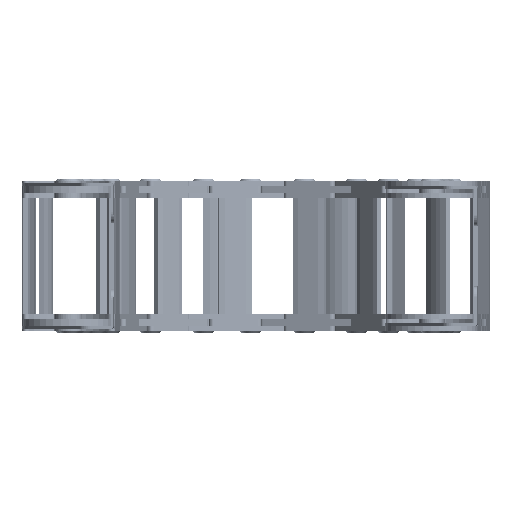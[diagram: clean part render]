
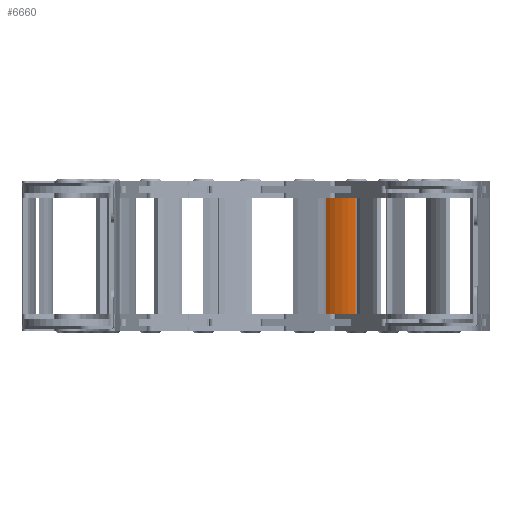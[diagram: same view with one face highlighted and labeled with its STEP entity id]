
A CAD part, left-side view. The second image highlights one B-rep face of the part: STEP entity #6660.
In plain terms, the highlighted cylindrical face has radius 52 mm (diameter 104 mm), a partial arc.
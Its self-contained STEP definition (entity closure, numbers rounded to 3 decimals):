
#6474=CARTESIAN_POINT('',(-14.018,-107.593,-338.4));
#6475=DIRECTION('',(0.,0.,1.));
#6476=DIRECTION('',(-0.202,0.979,0.));
#6477=AXIS2_PLACEMENT_3D('',#6474,#6475,#6476);
#6517=DIRECTION('',(0.,0.,1.));
#6518=VECTOR('',#6517,125.4);
#6519=CARTESIAN_POINT('',(-24.538,-56.668,-338.4));
#6520=LINE('',#6519,#6518);
#6524=DIRECTION('',(0.,0.,-1.));
#6525=VECTOR('',#6524,125.4);
#6526=CARTESIAN_POINT('',(-55.093,-75.705,-213.));
#6527=LINE('',#6526,#6525);
#6552=CARTESIAN_POINT('',(-14.018,-107.593,-213.));
#6553=DIRECTION('',(0.,0.,-1.));
#6554=DIRECTION('',(-0.79,0.613,0.));
#6555=AXIS2_PLACEMENT_3D('',#6552,#6553,#6554);
#6603=CARTESIAN_POINT('',(-24.538,-56.668,-213.));
#6605=VERTEX_POINT('',#6603);
#6606=CARTESIAN_POINT('',(-55.093,-75.705,-213.));
#6607=VERTEX_POINT('',#6606);
#6614=CARTESIAN_POINT('',(-24.538,-56.668,-338.4));
#6615=VERTEX_POINT('',#6614);
#6618=CARTESIAN_POINT('',(-55.093,-75.705,-338.4));
#6619=VERTEX_POINT('',#6618);
#6646=CARTESIAN_POINT('',(-14.018,-107.593,-288.));
#6647=DIRECTION('',(0.,0.,-1.));
#6648=DIRECTION('',(0.849,0.529,0.));
#6649=AXIS2_PLACEMENT_3D('',#6646,#6647,#6648);
#6650=CYLINDRICAL_SURFACE('',#6649,52.);
#6652=ORIENTED_EDGE('',*,*,#6651,.T.);
#6654=ORIENTED_EDGE('',*,*,#6653,.F.);
#6656=ORIENTED_EDGE('',*,*,#6655,.T.);
#6657=ORIENTED_EDGE('',*,*,#6631,.F.);
#6658=EDGE_LOOP('',(#6652,#6654,#6656,#6657));
#6659=FACE_OUTER_BOUND('',#6658,.F.);
#6660=ADVANCED_FACE('',(#6659),#6650,.T.);
#6478=CIRCLE('',#6477,52.);
#6556=CIRCLE('',#6555,52.);
#6631=EDGE_CURVE('',#6615,#6619,#6478,.T.);
#6651=EDGE_CURVE('',#6615,#6605,#6520,.T.);
#6653=EDGE_CURVE('',#6607,#6605,#6556,.T.);
#6655=EDGE_CURVE('',#6607,#6619,#6527,.T.);
